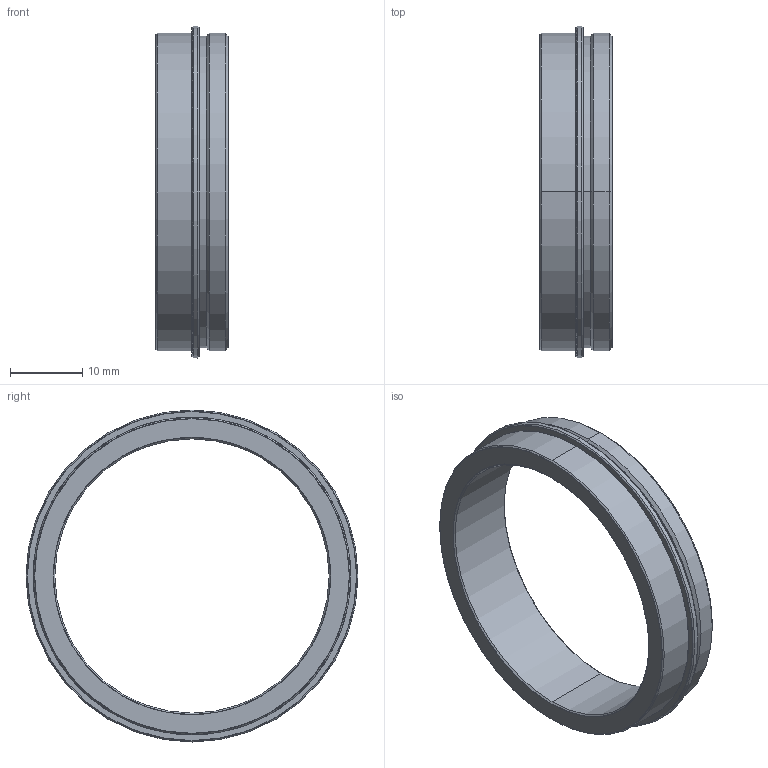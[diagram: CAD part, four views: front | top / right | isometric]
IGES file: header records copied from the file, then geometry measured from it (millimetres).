
Start section: SolidWorks IGES file using analytic representation for surfaces
Bounding box: 10 x 46 x 46 mm (x, y, z)
Surface area: 3601.8 mm2 (no closed solid volume)
Topology: 0 solids, 0 shells, 28 faces, 608 edges, 608 vertices
Faces by surface type: revolution 24, bspline 4
